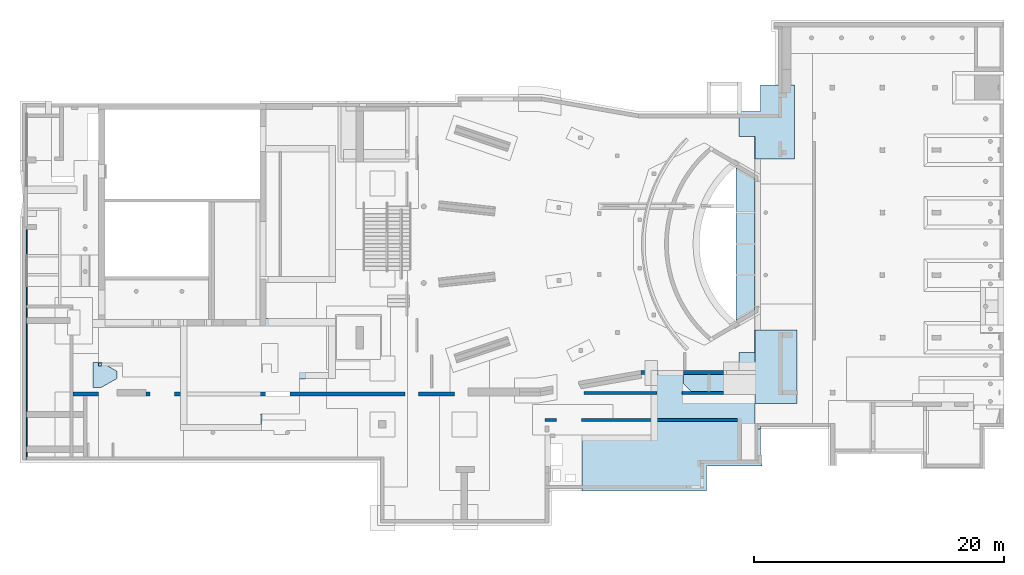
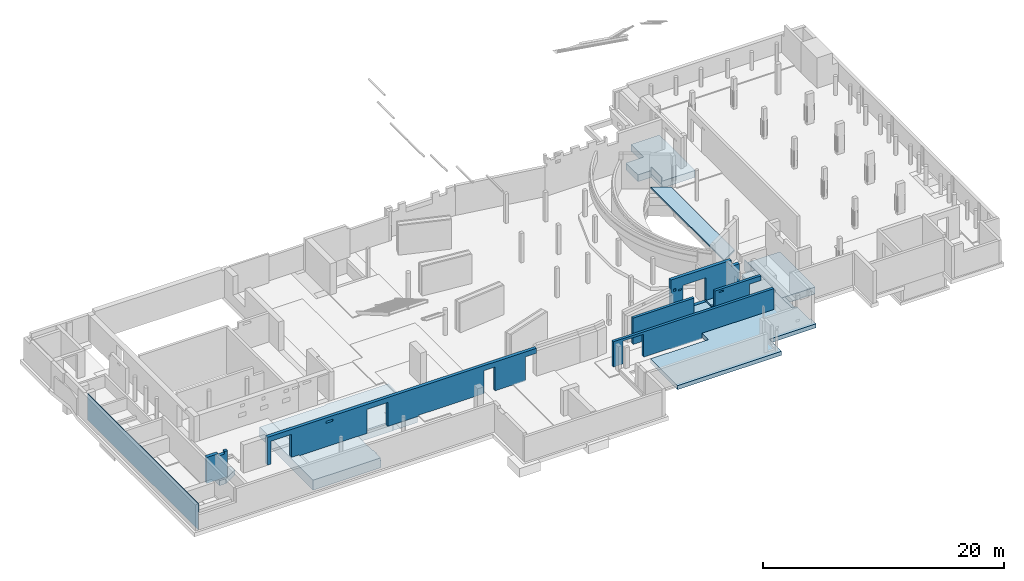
# One storey, part 39 of 42: 6 slabs, 5 walls.
"""IFC2X3 building model written with IfcOpenShell, lengths in millimetres."""

from ifc_helpers import new_model, entity, si_unit, converted_unit, derived_unit, direction, frame, origin, place, context, subcontext, project, spatial, faceted_brep, material, material_list, layer, layer_set, type_object, element, save


model = new_model("IFC2X3")

# Units and contexts
model_context = context("Model", 3, precision=0.01, world=origin(), true_north=direction((6.12303176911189e-17, 1.0)))
body_context = subcontext(model_context, "Body", "Model", "MODEL_VIEW")
ifc_project = project(units=[si_unit("LENGTHUNIT", "METRE", prefix="MILLI"), si_unit("AREAUNIT", "SQUARE_METRE", prefix="MILLI"), si_unit("VOLUMEUNIT", "CUBIC_METRE"), converted_unit("PLANEANGLEUNIT", "DEGREE", entity("IfcRatioMeasure", 0.0174532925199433), si_unit("PLANEANGLEUNIT", "RADIAN"), dimensions=[0, 0, 0, 0, 0, 0, 0]), si_unit("MASSUNIT", "GRAM", prefix="KILO"), derived_unit("MASSDENSITYUNIT", [(si_unit("MASSUNIT", "GRAM", prefix="KILO"), 1), (si_unit("LENGTHUNIT", "METRE"), -3)]), derived_unit("MOMENTOFINERTIAUNIT", [(si_unit("LENGTHUNIT", "METRE"), 4)]), si_unit("TIMEUNIT", "SECOND"), si_unit("FREQUENCYUNIT", "HERTZ"), si_unit("THERMODYNAMICTEMPERATUREUNIT", "DEGREE_CELSIUS"), derived_unit("THERMALTRANSMITTANCEUNIT", [(si_unit("MASSUNIT", "GRAM", prefix="KILO"), 1), (si_unit("THERMODYNAMICTEMPERATUREUNIT", "KELVIN"), -1), (si_unit("TIMEUNIT", "SECOND"), -3)]), derived_unit("VOLUMETRICFLOWRATEUNIT", [(si_unit("LENGTHUNIT", "METRE"), 3), (si_unit("TIMEUNIT", "SECOND"), -1)]), si_unit("ELECTRICCURRENTUNIT", "AMPERE"), si_unit("ELECTRICVOLTAGEUNIT", "VOLT"), si_unit("POWERUNIT", "WATT"), si_unit("FORCEUNIT", "NEWTON", prefix="KILO"), si_unit("ILLUMINANCEUNIT", "LUX"), si_unit("LUMINOUSFLUXUNIT", "LUMEN"), si_unit("LUMINOUSINTENSITYUNIT", "CANDELA"), derived_unit("USERDEFINED", [(si_unit("MASSUNIT", "GRAM", prefix="KILO"), -1), (si_unit("LENGTHUNIT", "METRE"), -2), (si_unit("TIMEUNIT", "SECOND"), 3), (si_unit("LUMINOUSFLUXUNIT", "LUMEN"), 1)]), derived_unit("LINEARVELOCITYUNIT", [(si_unit("LENGTHUNIT", "METRE"), 1), (si_unit("TIMEUNIT", "SECOND"), -1)]), si_unit("PRESSUREUNIT", "PASCAL"), derived_unit("USERDEFINED", [(si_unit("LENGTHUNIT", "METRE"), -2), (si_unit("MASSUNIT", "GRAM", prefix="KILO"), 1), (si_unit("TIMEUNIT", "SECOND"), -2)]), derived_unit("LINEARFORCEUNIT", [(si_unit("MASSUNIT", "GRAM", prefix="KILO"), 1), (si_unit("LENGTHUNIT", "METRE"), 1), (si_unit("TIMEUNIT", "SECOND"), -2), (si_unit("LENGTHUNIT", "METRE"), -1)]), derived_unit("PLANARFORCEUNIT", [(si_unit("MASSUNIT", "GRAM", prefix="KILO"), 1), (si_unit("LENGTHUNIT", "METRE"), 1), (si_unit("TIMEUNIT", "SECOND"), -2), (si_unit("LENGTHUNIT", "METRE"), -2)])], contexts=[model_context])

# Site, building, storey
site_placement = place(None, origin())
site = spatial("IfcSite", under=ifc_project, at=site_placement, Name="Theater aan de Parade", CompositionType="ELEMENT")
building_placement = place(site_placement, origin())
building = spatial("IfcBuilding", under=site, at=building_placement, Name="Theater aan de Parade", CompositionType="ELEMENT")
storey_placement = place(building_placement, frame((0.0, 0.0, -3300.0)))
storey = spatial("IfcBuildingStorey", under=building, at=storey_placement, Name="-1 kelder", CompositionType="ELEMENT", Elevation=-3300.0)

# Slabs
ifc_material_1 = material(Name="00_PBT_MAT_beton t.p.g.")
slab_type_1 = type_object("IfcSlabType", Name="Foundation Slab:13_PBT_FS_beton t.p.g._d=1100_bestaand", PredefinedType="BASESLAB")
slab_1_placement = place(storey_placement, origin())
element("IfcSlab", 1, at=slab_1_placement, inside=storey, type_object=slab_type_1, material=ifc_material_1, Name="Foundation Slab:13_PBT_FS_beton t.p.g._d=1100_bestaand", ObjectType="Foundation Slab:13_PBT_FS_beton t.p.g._d=1100_bestaand", PredefinedType="BASESLAB", context=body_context, shape_type="Brep", body=[
    faceted_brep([(69220.0, 45160.0, -440.0), (71920.0, 45160.0, -440.0), (71920.0, 39260.0, -440.0), (68741.6486850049, 39260.0, -440.0), (68741.6486850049, 41060.0, -440.0), (67489.8480775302, 41060.0, -440.0), (67489.8480775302, 43050.0, -440.0), (69220.0, 43050.0, -440.0), (68720.0, 41060.0, 660.0), (68720.0, 39260.0, 660.0), (68750.0, 39260.0, 660.0), (68750.0, 41060.0, 660.0), (69220.0, 45160.0, 260.0), (70420.0, 45160.0, 260.0), (71920.0, 45160.0, 260.0), (69220.0, 43050.0, 260.0), (71920.0, 39260.0, 260.0), (69220.0, 39260.0, 260.0), (68750.0, 39260.0, 260.0), (68720.0, 39260.0, -40.0), (68741.6486850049, 39260.0, -40.0), (68720.0, 41060.0, 260.0), (68720.0, 41060.0, -40.0), (68741.6486850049, 41060.0, -40.0), (67489.8480775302, 41060.0, 260.0), (67489.8480775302, 41060.0, -40.0), (67489.8480775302, 43050.0, 260.0), (67489.8480775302, 43050.0, -40.0), (68750.0, 41060.0, 260.0)], [[[0, 1, 2, 3, 4, 5, 6, 7]], [[8, 9, 10, 11]], [[1, 0, 12, 13, 14]], [[0, 7, 15, 12]], [[2, 16, 17, 18, 10, 9, 19, 20, 3]], [[2, 1, 14, 16]], [[9, 8, 21, 22, 19]], [[4, 23, 22, 21, 24, 25, 5]], [[6, 5, 25, 24, 26, 27]], [[7, 6, 27, 26, 15]], [[28, 18, 17, 16, 14, 13, 12, 15, 26, 24, 21]], [[28, 11, 10, 18]], [[11, 28, 21, 8]], [[22, 23, 20, 19]], [[23, 4, 3, 20]]]),
])
slab_type_2 = type_object("IfcSlabType", Name="Foundation Slab:13_PBT_FS_beton t.p.g._d=1100_bestaand", PredefinedType="BASESLAB")
slab_2_placement = place(storey_placement, origin())
element("IfcSlab", 2, at=slab_2_placement, inside=storey, type_object=slab_type_2, material=ifc_material_1, Name="Foundation Slab:13_PBT_FS_beton t.p.g._d=1100_bestaand", ObjectType="Foundation Slab:13_PBT_FS_beton t.p.g._d=1100_bestaand", PredefinedType="BASESLAB", context=body_context, shape_type="Brep", body=[
    faceted_brep([(72120.0, 19685.0, -440.0), (68750.0, 19685.0, -440.0), (68750.0, 20404.9914356, -440.0), (63915.0085643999, 20404.9914356, -440.0), (63035.0, 21285.0, -440.0), (63035.0, 21940.0, -440.0), (63035.0, 22340.0, -440.0), (67470.0, 22340.0, -440.0), (67470.0, 23760.0, -440.0), (68711.3405259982, 23760.0, -440.0), (68711.3405259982, 23794.0686810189, -440.0), (68720.0, 23794.0686810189, -440.0), (68720.0, 25560.0, -440.0), (72120.0, 25560.0, -440.0), (68720.0, 25560.0, 660.0), (68720.0, 23794.0686810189, 660.0), (67470.0, 23794.0686810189, 660.0), (67470.0, 22340.0, 660.0), (66231.256100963, 22340.0, 660.0), (63035.0, 22340.0, 660.0), (63035.0, 22040.0, 660.0), (63035.0, 21285.0, 660.0), (63915.0085643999, 20404.9914356, 660.0), (66231.256100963, 20404.9914356, 660.0), (68750.0, 20404.9914356, 660.0), (68750.0, 25560.0, 660.0), (72120.0, 19685.0, 260.0), (69200.0, 19685.0, 260.0), (68750.0, 19685.0, 260.0), (68750.0, 19685.0, 120.0), (68750.0, 20404.9914356, 260.0), (68750.0, 20404.9914356, 120.0), (68750.0, 25560.0, 260.0), (69220.0, 25560.0, 260.0), (72120.0, 25560.0, 260.0), (63035.0, 22340.0, -40.0), (63035.0, 22340.0, 120.0), (63035.0, 22340.0, 520.0), (67470.0, 22340.0, -40.0), (63035.0, 21285.0, 120.0), (63035.0, 21285.0, 520.0), (68750.0, 20404.9914356, 520.0), (63915.0085643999, 20404.9914356, 120.0), (63915.0085643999, 20404.9914356, 520.0), (67470.0, 23794.0686810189, -40.0), (67470.0, 23760.0, -40.0), (68711.3405259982, 23794.0686810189, -40.0), (68711.3405259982, 23760.0, -40.0)], [[[0, 1, 2, 3, 4, 5, 6, 7, 8, 9, 10, 11, 12, 13]], [[14, 15, 16, 17, 18, 19, 20, 21, 22, 23, 24, 25]], [[1, 0, 26, 27, 28, 29]], [[2, 1, 29, 28, 30, 31]], [[13, 12, 14, 25, 32, 33, 34]], [[0, 13, 34, 26]], [[12, 11, 15, 14]], [[7, 6, 35, 36, 37, 19, 18, 17, 38]], [[6, 5, 4, 39, 40, 21, 20, 19, 37, 36, 35]], [[28, 27, 26, 34, 33, 32, 30]], [[25, 24, 41, 30, 32]], [[4, 3, 42, 43, 22, 21, 40, 39]], [[17, 16, 44, 45, 8, 7, 38]], [[16, 15, 11, 10, 46, 44]], [[47, 45, 44, 46]], [[45, 47, 9, 8]], [[9, 47, 46, 10]], [[3, 2, 31, 30, 41, 24, 23, 22, 43, 42]]]),
])
slab_type_3 = type_object("IfcSlabType", Name="Foundation Slab:13_PBT_FS_beton t.p.g._d=400_bestaand", PredefinedType="BASESLAB")
slab_3_placement = place(storey_placement, origin())
element("IfcSlab", 3, at=slab_3_placement, inside=storey, type_object=slab_type_3, material=ifc_material_1, Name="Foundation Slab:13_PBT_FS_beton t.p.g._d=400_bestaand", ObjectType="Foundation Slab:13_PBT_FS_beton t.p.g._d=400_bestaand", PredefinedType="BASESLAB", context=body_context, shape_type="Brep", body=[
    faceted_brep([(69320.0, 14720.0, 120.0), (64870.0, 14720.0, 120.0), (64870.0, 12710.0, 120.0), (54915.0, 12710.0, 120.0), (54915.0, 16700.0, 120.0), (54915.0, 17200.0, 120.0), (60470.0, 17200.0, 120.0), (60470.0, 22340.0, 120.0), (60980.0, 22340.0, 120.0), (60992.7000000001, 22340.0, 120.0), (63035.0, 22340.0, 120.0), (63035.0, 21940.0, 120.0), (63035.0, 21285.0, 120.0), (63915.0085643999, 20404.9914356, 120.0), (68750.0, 20404.9914356, 120.0), (68750.0, 19685.0, 120.0), (69200.0, 19685.0, 120.0), (69200.0, 15580.0, 120.0), (69320.0, 15580.0, 120.0), (64870.0, 14720.0, 520.0), (69320.0, 14720.0, 520.0), (69320.0, 15580.0, 520.0), (69200.0, 15580.0, 520.0), (69200.0, 17655.0, 520.0), (68750.0, 17655.0, 520.0), (68750.0, 20105.0, 520.0), (68750.0, 20404.9914356, 520.0), (63915.0085643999, 20404.9914356, 520.0), (63035.0, 21285.0, 520.0), (63035.0, 22340.0, 520.0), (60470.0, 22340.0, 520.0), (60470.0, 17200.0, 520.0), (54915.0, 17200.0, 520.0), (54915.0, 12710.0, 520.0), (64870.0, 12710.0, 520.0), (68750.0, 17655.0, 260.0), (69200.0, 17655.0, 260.0), (69200.0, 19685.0, 260.0), (68750.0, 19685.0, 260.0), (68750.0, 20404.9914356, 260.0), (54915.0, 12710.0, 370.0), (54915.0, 17200.0, 370.0)], [[[0, 1, 2, 3, 4, 5, 6, 7, 8, 9, 10, 11, 12, 13, 14, 15, 16, 17, 18]], [[19, 20, 21, 22, 23, 24, 25, 26, 27, 28, 29, 30, 31, 32, 33, 34]], [[35, 36, 37, 38]], [[35, 24, 23, 36]], [[24, 35, 38, 15, 14, 39, 26, 25]], [[7, 30, 29, 10, 9, 8]], [[23, 22, 17, 16, 37, 36]], [[1, 0, 20, 19]], [[15, 38, 37, 16]], [[28, 12, 11, 10, 29]], [[12, 28, 27, 13]], [[18, 17, 22, 21]], [[0, 18, 21, 20]], [[2, 1, 19, 34]], [[3, 2, 34, 33, 40]], [[5, 4, 3, 40, 33, 32, 41]], [[6, 5, 41, 32, 31]], [[7, 6, 31, 30]], [[13, 27, 26, 39, 14]]]),
])
slab_type_4 = type_object("IfcSlabType", Name="Foundation Slab:13_PBT_FS_beton t.p.g._d=1000_bestaand", PredefinedType="BASESLAB")
slab_4_placement = place(storey_placement, origin())
element("IfcSlab", 4, at=slab_4_placement, inside=storey, type_object=slab_type_4, material=ifc_material_1, Name="Foundation Slab:13_PBT_FS_beton t.p.g._d=1000_bestaand", ObjectType="Foundation Slab:13_PBT_FS_beton t.p.g._d=1000_bestaand", PredefinedType="BASESLAB", context=body_context, shape_type="Brep", body=[
    faceted_brep([(22825.0, 26410.0, -1740.0), (29175.0, 26410.0, -1740.0), (29175.0, 26510.0, -1740.0), (29825.0, 26510.0, -1740.0), (34365.3842081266, 26510.0, -1740.0), (35205.0, 26510.0, -1740.0), (35205.0, 26034.4096612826, -1740.0), (35205.0, 26010.3251455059, -1740.0), (35205.0, 25306.4096612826, -1740.0), (35205.0, 25282.3251455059, -1740.0), (35205.0, 24578.4096612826, -1740.0), (35205.0, 24554.3251455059, -1740.0), (35205.0, 23850.4096612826, -1740.0), (35205.0, 23826.3251455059, -1740.0), (35205.0, 23122.4096612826, -1740.0), (35205.0, 23098.3159771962, -1740.0), (35205.0, 22386.4188295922, -1740.0), (35205.0, 22333.7674189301, -1740.0), (35205.0, 21690.0, -1740.0), (32840.0, 21690.0, -1740.0), (32840.0, 21665.0, -1740.0), (32590.0, 21665.0, -1740.0), (29240.0, 21665.0, -1740.0), (29240.0, 18865.0, -1740.0), (29345.0, 18865.0, -1740.0), (29345.0, 18365.0, -1740.0), (29345.0, 17540.0, -1740.0), (22825.0, 17540.0, -1740.0), (30640.0, 22165.0, -1740.0), (30640.0, 24500.0, -1740.0), (29290.0, 24500.0, -1740.0), (29290.0, 22165.0, -1740.0), (30640.0, 24500.0, -740.0), (30640.0, 22790.0, -740.0), (30640.0, 22165.0, -740.0), (30090.0, 22165.0, -740.0), (29390.0, 22165.0, -740.0), (29290.0, 22165.0, -740.0), (29290.0, 22790.0, -740.0), (29290.0, 24500.0, -740.0), (29175.0, 26410.0, -740.0), (26235.0, 26410.0, -740.0), (22825.0, 26410.0, -740.0), (22825.0, 26400.0, -740.0), (22825.0, 18040.0, -740.0), (22825.0, 17540.0, -740.0), (29290.0, 17540.0, -740.0), (29290.0, 18040.0, -740.0), (29290.0, 18365.0, -740.0), (29345.0, 18365.0, -740.0), (29345.0, 18665.0, -740.0), (29345.0, 18815.0, -740.0), (29345.0, 18865.0, -740.0), (29240.0, 18865.0, -740.0), (29240.0, 21665.0, -740.0), (29590.0, 21665.0, -740.0), (31990.0, 21665.0, -740.0), (32840.0, 21665.0, -740.0), (32840.0, 21690.0, -740.0), (34680.0, 21690.0, -740.0), (35205.0, 21690.0, -740.0), (35205.0, 22333.7674189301, -740.0), (35205.0, 22990.9673878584, -740.0), (35205.0, 25910.0, -740.0), (35205.0, 26510.0, -740.0), (29825.0, 26510.0, -740.0), (29175.0, 26510.0, -740.0), (29175.0, 26510.0, -752.025316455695), (35205.0, 26510.0, -1640.0), (29345.0, 17540.0, -1040.0), (29290.0, 17540.0, -1040.0), (30640.0, 22165.0, -890.0), (30640.0, 24500.0, -890.0), (29290.0, 24500.0, -890.0), (29290.0, 22165.0, -890.0), (29345.0, 18365.0, -1040.0), (29290.0, 18365.0, -1040.0)], [[[0, 1, 2, 3, 4, 5, 6, 7, 8, 9, 10, 11, 12, 13, 14, 15, 16, 17, 18, 19, 20, 21, 22, 23, 24, 25, 26, 27], [28, 29, 30, 31]], [[32, 33, 34, 35, 36, 37, 38, 39], [40, 41, 42, 43, 44, 45, 46, 47, 48, 49, 50, 51, 52, 53, 54, 55, 56, 57, 58, 59, 60, 61, 62, 63, 64, 65, 66]], [[1, 0, 42, 41, 40]], [[2, 1, 40, 66, 67]], [[5, 4, 3, 2, 67, 66, 65, 64, 68]], [[18, 17, 16, 15, 14, 13, 12, 11, 10, 9, 8, 7, 6, 5, 68, 64, 63, 62, 61, 60]], [[19, 18, 60, 59, 58]], [[20, 19, 58, 57]], [[22, 21, 20, 57, 56, 55, 54]], [[23, 22, 54, 53]], [[27, 26, 69, 70, 46, 45]], [[0, 27, 45, 44, 43, 42]], [[29, 28, 71, 34, 33, 32, 72]], [[30, 29, 72, 32, 39, 73]], [[31, 30, 73, 39, 38, 37, 74]], [[28, 31, 74, 37, 36, 35, 34, 71]], [[24, 23, 53, 52]], [[26, 25, 24, 52, 51, 50, 49, 75, 69]], [[76, 70, 69, 75]], [[70, 76, 48, 47, 46]], [[76, 75, 49, 48]]], outer=[[True, False], [False, True], [True], [True], [True], [True], [True], [True], [True], [True], [True], [True], [True], [True], [True], [True], [True], [True], [True], [True], [True]]),
])
slab_type_5 = type_object("IfcSlabType", Name="Foundation Slab:13_PBT_FS_beton t.p.g._d=900 poer_bestaand", PredefinedType="BASESLAB")
slab_5_placement = place(storey_placement, origin())
element("IfcSlab", 5, at=slab_5_placement, inside=storey, type_object=slab_type_5, material=ifc_material_1, Name="Foundation Slab:13_PBT_FS_beton t.p.g._d=900 poer_bestaand", ObjectType="Foundation Slab:13_PBT_FS_beton t.p.g._d=900 poer_bestaand", PredefinedType="BASESLAB", context=body_context, shape_type="Brep", body=[
    faceted_brep([(15840.0, 20990.0, -940.0), (15840.0, 22990.0, -940.0), (16490.0, 22990.0, -940.0), (17740.0, 22290.0, -940.0), (17740.0, 21690.0, -940.0), (16490.0, 20990.0, -940.0), (16275.0, 22940.0, -40.0), (16275.0, 22690.0, -40.0), (16525.0, 22690.0, -40.0), (16525.0, 22940.0, -40.0), (15840.0, 22990.0, -440.0), (15840.0, 20990.0, -440.0), (16490.0, 20990.0, -440.0), (17740.0, 21690.0, -440.0), (17740.0, 22290.0, -440.0), (16490.0, 22990.0, -440.0), (16275.0, 22940.0, -440.0), (16525.0, 22940.0, -440.0), (16525.0, 22690.0, -440.0), (16275.0, 22690.0, -440.0)], [[[0, 1, 2, 3, 4, 5]], [[6, 7, 8, 9]], [[10, 11, 12, 13, 14, 15], [16, 17, 18, 19]], [[1, 0, 11, 10]], [[2, 1, 10, 15]], [[3, 2, 15, 14]], [[4, 3, 14, 13]], [[5, 4, 13, 12]], [[0, 5, 12, 11]], [[19, 7, 6, 16]], [[7, 19, 18, 8]], [[16, 6, 9, 17]], [[18, 17, 9, 8]]]),
])
ifc_material_2 = material(Name="00_PBT_MAT_beton t.p.g._C30/37")
ifc_material_3 = material(Name="00_PBT_MAT_staal")
ifc_material_list = material_list([ifc_material_2, ifc_material_3])
slab_type_6 = type_object("IfcSlabType", Name="Floor:28_PBT_FL_staalplaatbeton_d=150_C30/37", PredefinedType="FLOOR")
slab_6_placement = place(storey_placement, origin())
element("IfcSlab", 6, at=slab_6_placement, inside=storey, type_object=slab_type_6, material=ifc_material_list, Name="Floor:28_PBT_FL_staalplaatbeton_d=150_C30/37", ObjectType="Floor:28_PBT_FL_staalplaatbeton_d=150_C30/37", PredefinedType="FLOOR", context=body_context, shape_type="Brep", body=[
    faceted_brep([(68720.0, 37709.4987586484, 510.0), (68720.0, 27180.5012413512, 510.0), (67250.0, 26331.949205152, 510.0), (67250.0, 38558.0507948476, 510.0), (67326.9040861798, 38513.6581969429, 510.0), (67311.40618009, 38486.8102006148, 510.0), (68697.1092163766, 37686.9182733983, 510.0), (68712.6071224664, 37713.7662697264, 510.0), (67250.0, 26331.949205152, 660.0), (68720.0, 27180.5012413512, 660.0), (68720.0, 37709.4987586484, 660.0), (67250.0, 38558.0507948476, 660.0), (68712.6071224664, 37713.7662697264, 645.0), (67326.9040861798, 38513.6581969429, 645.0), (68698.8647181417, 37689.9594393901, 511.454501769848), (68700.6202199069, 37693.0006053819, 512.909003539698), (68702.7653064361, 37696.716673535, 514.686291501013), (68703.3510137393, 37697.7313310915, 517.514718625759), (68703.9367210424, 37698.7459886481, 520.343145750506), (68704.5224283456, 37699.7606462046, 523.171572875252), (68705.1081356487, 37700.7753037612, 526.0), (68705.1081356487, 37700.7753037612, 637.0), (68706.2795502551, 37702.8046188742, 642.65685424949), (68709.1075952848, 37707.7038189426, 645.0), (67319.4050993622, 38500.6672309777, 526.0), (67319.4050993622, 38500.6672309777, 637.0), (67313.1616818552, 38489.8513666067, 511.454501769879), (67314.2342251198, 38491.7094006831, 512.343145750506), (67315.6482476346, 38494.1590007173, 513.51471862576), (67317.0622701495, 38496.6086007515, 514.686291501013), (67317.6479774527, 38497.623258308, 517.51471862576), (67318.2336847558, 38498.6379158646, 520.343145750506), (67318.819392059, 38499.6525734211, 523.171572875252), (67323.4045589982, 38507.5957461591, 645.0), (67320.5765139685, 38502.6965460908, 642.65685424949)], [[[0, 1, 2, 3, 4, 5, 6, 7]], [[8, 9, 10, 11]], [[2, 1, 9, 8]], [[3, 2, 8, 11]], [[4, 3, 11, 10, 0, 7, 12, 13]], [[1, 0, 10, 9]], [[7, 6, 14, 15, 16, 17, 18, 19, 20, 21, 22, 23, 12]], [[21, 20, 24, 25]], [[6, 5, 26, 27, 28, 29, 16, 15, 14]], [[30, 31, 32, 24, 20, 19, 18, 17, 16, 29]], [[12, 23, 33, 13]], [[21, 25, 34, 22]], [[34, 33, 23, 22]], [[4, 13, 33, 34, 25, 24, 32, 31, 30, 29, 28, 27, 26, 5]]]),
])

# Walls
ifc_layer_1 = layer(ifc_material_1, 300.0)
ifc_layer_set_1 = layer_set([ifc_layer_1], Name="Basic Wall:28_PBT_WA_beton t.p.g._d=300_bestaand")
wall_type_1 = type_object("IfcWallType", Name="Basic Wall:28_PBT_WA_beton t.p.g._d=300_bestaand", PredefinedType="STANDARD", material=ifc_layer_set_1)
wall_1_placement = place(storey_placement, frame((66231.256100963, 22190.0, -40.0), z_axis=(0.0, 0.0, 1.0), x_axis=(-1.0, 0.0, 0.0)))
element("IfcWall", 7, at=wall_1_placement, inside=storey, type_object=wall_type_1, Name="Basic Wall:28_PBT_WA_beton t.p.g._d=300_bestaand", ObjectType="Basic Wall:28_PBT_WA_beton t.p.g._d=300_bestaand", context=body_context, shape_type="Brep", body=[
    faceted_brep([(6589.82752953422, -150.0, 3920.0), (5896.76049107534, -150.0, 3920.0), (5296.67942553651, -150.0, 3920.0), (784.208945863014, -150.0, 3920.0), (784.208945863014, -150.0, 3285.0), (0.0, -150.0, 3285.0), (0.0, -150.0, 700.0), (3196.25610096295, -150.0, 700.0), (3196.25610096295, -150.0, 2980.0), (5416.25610096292, -150.0, 2980.0), (5416.25610096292, -150.0, 560.0), (3196.25610096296, -150.0, 560.0), (3196.25610096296, -150.0, 0.0), (6589.82752953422, -150.0, 0.0), (6066.25610096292, -150.0, 2680.0), (6066.25610096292, -150.0, 2930.0), (6316.25610096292, -150.0, 2930.0), (6316.25610096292, -150.0, 2680.0), (5541.25610096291, -150.0, 2565.0), (5541.25610096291, -150.0, 2715.0), (5856.5743815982, -150.0, 2715.0), (5856.5743815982, -150.0, 2565.0), (6066.25610096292, 150.0, 2930.0), (6066.25610096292, 150.0, 2680.0), (6316.25610096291, 150.0, 2680.0), (6316.25610096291, 150.0, 2930.0), (5541.25610096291, 150.0, 2715.0), (5541.25610096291, 150.0, 2565.0), (5856.57438159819, 150.0, 2565.0), (5856.57438159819, 150.0, 2715.0), (784.208945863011, 150.0, 3920.0), (6416.46933765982, 150.0, 3920.0), (6563.77548631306, 150.0, 3920.0), (6563.77548631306, 150.0, 0.0), (3196.25610096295, 150.0, 0.0), (3196.25610096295, 150.0, 560.0), (5416.25610096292, 150.0, 560.0), (5416.25610096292, 150.0, 2980.0), (3196.25610096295, 150.0, 2980.0), (3196.25610096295, 150.0, 700.0), (0.0, 150.0, 700.0), (0.0, 150.0, 3285.0), (784.208945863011, 150.0, 3285.0)], [[[0, 1, 2, 3, 4, 5, 6, 7, 8, 9, 10, 11, 12, 13], [14, 15, 16, 17], [18, 19, 20, 21]], [[22, 23, 24, 25], [26, 27, 28, 29], [30, 31, 32, 33, 34, 35, 36, 37, 38, 39, 40, 41, 42]], [[7, 6, 40, 39]], [[12, 11, 35, 34]], [[33, 13, 12, 34]], [[3, 2, 1, 0, 32, 31, 30]], [[15, 14, 23, 22]], [[16, 15, 22, 25]], [[17, 16, 25, 24]], [[14, 17, 24, 23]], [[19, 18, 27, 26]], [[20, 19, 26, 29]], [[21, 20, 29, 28]], [[18, 21, 28, 27]], [[9, 8, 38, 37]], [[10, 9, 37, 36]], [[11, 10, 36, 35]], [[38, 8, 7, 39]], [[4, 3, 30, 42]], [[5, 4, 42, 41]], [[0, 13, 33, 32]], [[5, 41, 40, 6]]], outer=[[True, False, False], [False, False, True], [True], [True], [True], [True], [True], [True], [True], [True], [True], [True], [True], [True], [True], [True], [True], [True], [True], [True], [True], [True]]),
])
ifc_layer_2 = layer(ifc_material_2, 300.0)
ifc_layer_set_2 = layer_set([ifc_layer_2], Name="Basic Wall:28_PBT_WA_beton t.p.g._d=300_C30/37")
wall_type_2 = type_object("IfcWallType", Name="Basic Wall:28_PBT_WA_beton t.p.g._d=300_C30/37", PredefinedType="STANDARD", material=ifc_layer_set_2)
wall_2_placement = place(storey_placement, frame((14244.1133121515, 20461.3674530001, -40.0)))
element("IfcWall", 8, at=wall_2_placement, inside=storey, type_object=wall_type_2, Name="Basic Wall:28_PBT_WA_beton t.p.g._d=300_C30/37", ObjectType="Basic Wall:28_PBT_WA_beton t.p.g._d=300_C30/37", context=body_context, shape_type="Brep", body=[
    faceted_brep([(1109.74369036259, -150.0, 2680.0), (1109.74369036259, -150.0, 2930.0), (809.743690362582, -150.0, 2930.0), (0.0, -150.0, 2930.0), (0.0, -150.0, 300.0), (809.743690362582, -150.0, 300.0), (1109.74369036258, -150.0, 300.0), (2009.74369036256, -150.0, 300.0), (2009.74369036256, -150.0, 2930.0), (1709.74369036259, -150.0, 2930.0), (1709.74369036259, -150.0, 2680.0), (0.0, 150.0, 2930.0), (0.0, 150.0, 300.0), (2009.74369036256, 150.0, 2930.0), (2009.74369036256, 150.0, 300.0), (1109.74369036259, 150.0, 2680.0), (1109.74369036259, 150.0, 2930.0), (1709.74369036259, 150.0, 2680.0), (1709.74369036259, 150.0, 2930.0)], [[[0, 1, 2, 3, 4, 5, 6, 7, 8, 9, 10]], [[3, 11, 12, 4]], [[13, 8, 7, 14]], [[7, 6, 5, 4, 12, 14]], [[0, 15, 16, 1]], [[15, 0, 10, 17]], [[17, 10, 9, 18]], [[18, 9, 8, 13]], [[11, 3, 2, 1, 16]], [[16, 15, 17, 18, 13, 14, 12, 11]]]),
    faceted_brep([(8105.61076974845, 150.0, 2420.0), (6130.61076974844, 150.0, 2420.0), (6130.61076974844, 150.0, 100.0), (5818.74369036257, 150.0, 100.0), (5818.74369036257, 150.0, 2930.0), (31560.4567486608, 150.0, 2930.0), (31560.4567486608, 150.0, 2420.0), (30506.4567486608, 150.0, 2420.0), (30506.4567486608, 150.0, 0.0), (27599.9931172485, 150.0, 0.0), (27599.9931172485, 150.0, 2420.0), (26545.9931172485, 150.0, 2420.0), (26545.9931172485, 150.0, 100.0), (20260.8866878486, 150.0, 100.0), (20260.8866878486, 150.0, 0.0), (18095.8866878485, 150.0, 0.0), (17334.8001211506, 150.0, 0.0), (17334.8001211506, 150.0, 2420.0), (15359.8001211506, 150.0, 2420.0), (15359.8001211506, 150.0, 0.0), (14995.8866878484, 150.0, 0.0), (9080.88668784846, 150.0, 0.0), (8830.88668784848, 150.0, 0.0), (8830.88668784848, 150.0, 100.0), (8105.61076974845, 150.0, 100.0), (11415.8866878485, 150.0, 2577.95760675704), (11415.8866878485, 150.0, 2377.95760675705), (12090.8866878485, 150.0, 2377.95760675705), (12090.8866878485, 150.0, 2577.95760675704), (17334.8001211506, -150.0, 0.0), (20260.8866878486, -150.0, 0.0), (18095.8866878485, -150.0, 0.0), (31560.4567486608, -150.0, 2930.0), (31560.4567486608, -150.0, 2420.0), (5818.74369036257, -150.0, 2930.0), (6130.61076974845, -150.0, 2420.0), (6130.61076974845, -150.0, 100.0), (8105.61076974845, -150.0, 2420.0), (8105.61076974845, -150.0, 100.0), (26545.9931172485, -150.0, 2420.0), (26545.9931172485, -150.0, 100.0), (27599.9931172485, -150.0, 2420.0), (27599.9931172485, -150.0, 0.0), (15359.8001211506, -150.0, 2420.0), (15359.8001211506, -150.0, 0.0), (17334.8001211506, -150.0, 2420.0), (30506.4567486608, -150.0, 2420.0), (30506.4567486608, -150.0, 0.0), (5818.74369036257, -150.0, 100.0), (20260.8866878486, -150.0, 100.0), (8830.88668784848, -150.0, 100.0), (8830.88668784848, -150.0, 0.0), (11415.8866878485, -150.0, 2377.95760675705), (11415.8866878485, -150.0, 2577.95760675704), (12090.8866878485, -150.0, 2377.95760675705), (12090.8866878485, -150.0, 2577.95760675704), (14995.8866878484, -150.0, 0.0), (9080.88668784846, -150.0, 0.0)], [[[0, 1, 2, 3, 4, 5, 6, 7, 8, 9, 10, 11, 12, 13, 14, 15, 16, 17, 18, 19, 20, 21, 22, 23, 24], [25, 26, 27, 28]], [[29, 16, 15, 14, 30, 31]], [[5, 32, 33, 6]], [[32, 5, 4, 34]], [[1, 35, 36, 2]], [[37, 0, 24, 38]], [[35, 1, 0, 37]], [[11, 39, 40, 12]], [[41, 10, 9, 42]], [[39, 11, 10, 41]], [[18, 43, 44, 19]], [[45, 17, 16, 29]], [[43, 18, 17, 45]], [[7, 46, 47, 8]], [[46, 7, 6, 33]], [[34, 4, 3, 48]], [[49, 13, 12, 40]], [[13, 49, 30, 14]], [[36, 48, 3, 2]], [[50, 23, 22, 51]], [[52, 26, 25, 53]], [[26, 52, 54, 27]], [[27, 54, 55, 28]], [[53, 25, 28, 55]], [[23, 50, 38, 24]], [[42, 9, 8, 47]], [[19, 44, 56, 57, 51, 22, 21, 20]], [[35, 37, 38, 50, 51, 57, 56, 44, 43, 45, 29, 31, 30, 49, 40, 39, 41, 42, 47, 46, 33, 32, 34, 48, 36], [52, 53, 55, 54]]]),
])
ifc_layer_3 = layer(ifc_material_2, 250.0)
ifc_layer_set_3 = layer_set([ifc_layer_3], Name="Basic Wall:28_PBT_WA_beton t.p.g._d=250_C30/37")
wall_type_3 = type_object("IfcWallType", Name="Basic Wall:28_PBT_WA_beton t.p.g._d=250_C30/37", PredefinedType="STANDARD", material=ifc_layer_set_3)
wall_3_placement = place(storey_placement, frame((51975.0, 18386.367453, -40.0)))
element("IfcWall", 9, at=wall_3_placement, inside=storey, type_object=wall_type_3, Name="Basic Wall:28_PBT_WA_beton t.p.g._d=250_C30/37", ObjectType="Basic Wall:28_PBT_WA_beton t.p.g._d=250_C30/37", context=body_context, shape_type="Brep", body=[
    faceted_brep([(15381.256100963, -125.0, 560.0), (15381.256100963, -125.0, 2660.0), (0.0, -125.0, 2660.0), (0.0, -125.0, 100.0), (935.0, -125.0, 100.0), (935.0, -125.0, 2420.0), (2910.0, -125.0, 2420.0), (2910.0, -125.0, 100.0), (5450.0, -125.0, 100.0), (5450.0, -125.0, 0.0), (8495.0, -125.0, 0.0), (8495.0, -125.0, 100.0), (8495.0, -125.0, 560.0), (15381.256100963, 125.0, 2660.0), (15381.256100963, 125.0, 560.0), (8495.0, 125.0, 560.0), (8495.0, 125.0, 0.0), (5450.0, 125.0, 0.0), (5450.0, 125.0, 100.0), (2910.0, 125.0, 100.0), (2910.0, 125.0, 2420.0), (935.0, 125.0, 2420.0), (935.0, 125.0, 100.0), (0.0, 125.0, 100.0), (0.0, 125.0, 2660.0)], [[[0, 1, 2, 3, 4, 5, 6, 7, 8, 9, 10, 11, 12]], [[13, 14, 15, 16, 17, 18, 19, 20, 21, 22, 23, 24]], [[0, 12, 15, 14]], [[6, 20, 19, 7]], [[21, 5, 4, 22]], [[20, 6, 5, 21]], [[4, 3, 23, 22]], [[8, 18, 17, 9]], [[1, 0, 14, 13]], [[2, 1, 13, 24]], [[2, 24, 23, 3]], [[16, 10, 9, 17]], [[10, 16, 15, 12, 11]], [[18, 8, 7, 19]]]),
])
wall_4_placement = place(storey_placement, frame((55097.773249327, 20529.9914356, -40.0)))
element("IfcWall", 10, at=wall_4_placement, inside=storey, type_object=wall_type_3, Name="Basic Wall:28_PBT_WA_beton t.p.g._d=250_C30/37", ObjectType="Basic Wall:28_PBT_WA_beton t.p.g._d=250_C30/37", context=body_context, shape_type="Brep", body=[
    faceted_brep([(0.0, -125.0, 2660.0), (0.0, -125.0, 0.0), (5372.2267506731, -125.0, 0.0), (5372.2267506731, -125.0, 560.0), (5850.22675067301, -125.0, 560.0), (5850.22675067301, -125.0, 2660.0), (0.0, 125.0, 2660.0), (0.0, 125.0, 0.0), (5372.2267506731, 125.0, 0.0), (5372.2267506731, 125.0, 560.0), (5850.22675067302, 125.0, 560.0), (5850.22675067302, 125.0, 2660.0), (5064.91639961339, 125.0, 2660.0)], [[[0, 1, 2, 3, 4, 5]], [[1, 0, 6, 7]], [[1, 7, 8, 2]], [[2, 8, 9, 3]], [[5, 4, 10, 11]], [[3, 9, 10, 4]], [[6, 0, 5, 11, 12]], [[7, 6, 12, 11, 10, 9, 8]]]),
    faceted_brep([(7825.22675067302, 125.0, 560.0), (7825.22675067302, 125.0, 2660.0), (8782.48630177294, 125.0, 2660.0), (10114.2788261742, 125.0, 2660.0), (12258.482851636, 125.0, 2660.0), (12258.482851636, 125.0, 2200.0), (11133.482851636, 125.0, 2200.0), (11133.482851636, 125.0, 700.0), (10114.2788261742, 125.0, 700.0), (9864.27882617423, 125.0, 700.0), (8567.23531507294, 125.0, 700.0), (8567.23531507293, 125.0, 560.0), (8209.22675067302, 125.0, 2484.31990828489), (8209.22675067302, 125.0, 2354.3199082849), (8659.22675067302, 125.0, 2354.3199082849), (8659.22675067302, 125.0, 2484.31990828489), (12258.482851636, -125.0, 2660.0), (12258.482851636, -125.0, 2200.0), (7825.22675067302, -125.0, 2660.0), (7825.22675067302, -125.0, 560.0), (8817.23531507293, -125.0, 700.0), (8817.23531507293, -125.0, 560.0), (11133.482851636, -125.0, 700.0), (8209.22675067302, -125.0, 2354.3199082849), (8209.22675067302, -125.0, 2484.31990828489), (8659.22675067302, -125.0, 2354.3199082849), (8659.22675067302, -125.0, 2484.31990828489), (11133.482851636, -125.0, 2200.0)], [[[0, 1, 2, 3, 4, 5, 6, 7, 8, 9, 10, 11], [12, 13, 14, 15]], [[4, 16, 17, 5]], [[16, 4, 3, 2, 1, 18]], [[19, 18, 1, 0]], [[11, 10, 20, 21]], [[11, 21, 19, 0]], [[20, 10, 9, 8, 7, 22]], [[23, 13, 12, 24]], [[13, 23, 25, 14]], [[14, 25, 26, 15]], [[24, 12, 15, 26]], [[27, 6, 5, 17]], [[6, 27, 22, 7]], [[18, 19, 21, 20, 22, 27, 17, 16], [23, 24, 26, 25]]]),
])
ifc_layer_4 = layer(ifc_material_2, 65.0)
ifc_layer_set_4 = layer_set([ifc_layer_4], Name="Basic Wall:28_PBT_WA_beton t.p.g._d=65_C30/37")
wall_type_4 = type_object("IfcWallType", Name="Basic Wall:28_PBT_WA_beton t.p.g._d=65_C30/37", PredefinedType="STANDARD", material=ifc_layer_set_4)
wall_5_placement = place(storey_placement, frame((10521.6125537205, 15190.0, -40.0), z_axis=(0.0, 0.0, 1.0), x_axis=(0.0, 1.0, 0.0)))
element("IfcWall", 11, at=wall_5_placement, inside=storey, type_object=wall_type_4, Name="Basic Wall:28_PBT_WA_beton t.p.g._d=65_C30/37", ObjectType="Basic Wall:28_PBT_WA_beton t.p.g._d=65_C30/37", context=body_context, shape_type="Brep", body=[
    faceted_brep([(600.0, -32.5000000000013, 0.0), (600.0, -32.5000000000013, 1540.0), (250.0, -32.5000000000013, 1540.0), (250.0, -32.5000000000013, 0.0), (18410.0, 32.4999999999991, 0.0), (0.0, 32.4999999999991, 0.0), (0.0, 32.4999999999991, 2650.0), (18410.0, 32.4999999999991, 2650.0), (18410.0, 31.6125537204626, 0.0), (18410.0, -32.5000000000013, 0.0), (12380.0, -32.5000000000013, 0.0), (12380.0, 31.6125537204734, 0.0), (12130.0, 31.6125537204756, 0.0), (12130.0, -32.5000000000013, 0.0), (11390.0, -32.5000000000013, 0.0), (11390.0, 31.6125537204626, 0.0), (10890.0, 31.6125537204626, 0.0), (10890.0, -32.5000000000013, 0.0), (3890.79154070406, -32.5000000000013, 0.0), (3890.79154070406, 31.6125537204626, 0.0), (3390.79154070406, 31.6125537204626, 0.0), (3390.79154070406, -32.5000000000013, 0.0), (1100.0, -32.5000000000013, 0.0), (1100.0, 31.6125537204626, 0.0), (600.0, 31.6125537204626, 0.0), (250.0, 31.6125537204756, 0.0), (0.0, 31.6125537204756, 0.0), (18410.0, -32.5000000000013, 2650.0), (18410.0, -32.5000000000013, 1450.0), (18410.0, -32.5000000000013, 1200.0), (18410.0, 31.6125537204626, 2650.0), (0.0, -32.5000000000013, 2650.0), (12130.0, -32.5000000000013, 2650.0), (12130.0, 31.6125537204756, 2650.0), (12380.0, 31.6125537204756, 2650.0), (12380.0, -32.5000000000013, 2650.0), (13902.0, -32.5000000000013, 2650.0), (14702.0, -32.5000000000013, 2650.0), (0.0, 31.6125537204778, 1540.0), (0.0, 31.6125537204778, 1840.0), (0.0, -32.5000000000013, 1840.0), (12380.0, -32.5000000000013, 1200.0), (12380.0, -32.5000000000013, 1450.0), (12130.0, 31.6125537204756, 1540.0), (12130.0, -32.5000000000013, 1540.0), (12130.0, 31.6125537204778, 1840.0), (250.0, 31.6125537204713, 1540.0), (600.0, 31.6125537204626, 1540.0), (1100.0, 31.6125537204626, 1540.0), (3390.79154070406, 31.6125537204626, 1540.0), (3890.79154070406, 31.6125537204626, 1540.0), (10890.0, 31.6125537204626, 1540.0), (11390.0, 31.6125537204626, 1540.0), (10890.0, -32.5000000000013, 1540.0), (11390.0, -32.5000000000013, 1540.0), (3390.79154070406, -32.5000000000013, 1540.0), (3890.79154070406, -32.5000000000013, 1540.0), (1100.0, -32.5000000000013, 1540.0), (12130.0, -32.5000000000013, 1840.0)], [[[0, 1, 2, 3]], [[4, 5, 6, 7]], [[5, 4, 8, 9, 10, 11, 12, 13, 14, 15, 16, 17, 18, 19, 20, 21, 22, 23, 24, 0, 3, 25, 26]], [[27, 28, 29, 9, 8, 4, 7, 30]], [[7, 6, 31, 32, 33, 34, 35, 36, 37, 27, 30]], [[6, 5, 26, 38, 39, 40, 31]], [[34, 11, 10, 41, 42, 35]], [[13, 12, 43, 44]], [[11, 34, 33, 45, 39, 38, 26, 25, 46, 47, 24, 23, 48, 49, 20, 19, 50, 51, 16, 15, 52, 43, 12]], [[16, 51, 53, 17]], [[52, 15, 14, 54]], [[20, 49, 55, 21]], [[50, 19, 18, 56]], [[24, 47, 1, 0]], [[48, 23, 22, 57]], [[54, 44, 43, 52]], [[39, 45, 58, 40]], [[46, 25, 3, 2]], [[56, 53, 51, 50]], [[57, 55, 49, 48]], [[1, 47, 46, 2]], [[33, 32, 58, 45]], [[21, 55, 57, 22]], [[17, 53, 56, 18]], [[14, 13, 44, 54]], [[32, 31, 40, 58]], [[9, 29, 28, 27, 37, 36, 35, 42, 41, 10]]]),
])

save(model, "model.ifc")
